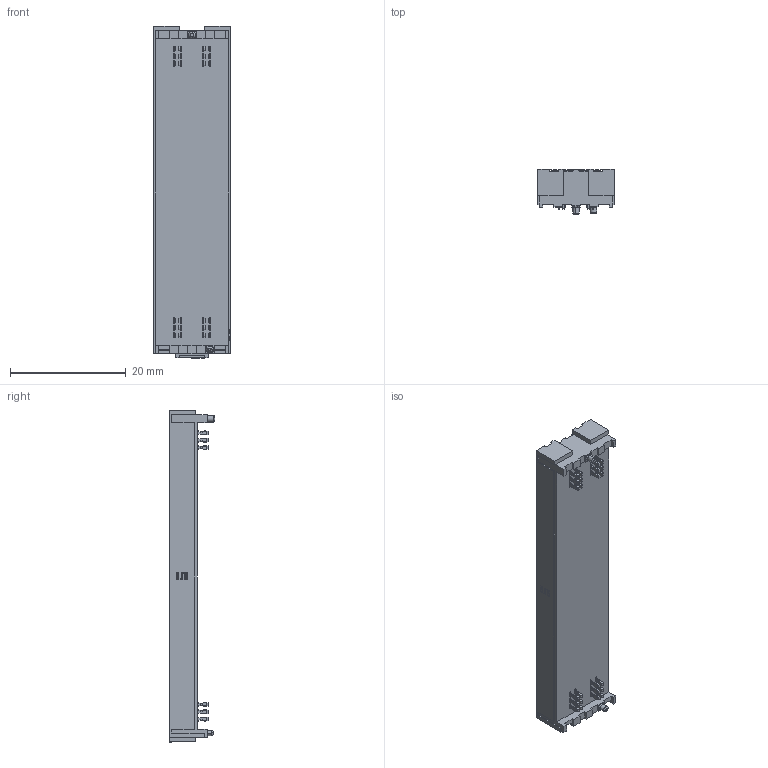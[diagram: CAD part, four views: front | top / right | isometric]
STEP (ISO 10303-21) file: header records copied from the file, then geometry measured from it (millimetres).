
FILE_DESCRIPTION (( 'STEP AP203' ), '1' );
FILE_NAME ('ASP-134603-01.step', '2017-09-11T19:12:48', ( '' ), ( '' ), 'SwSTEP 2.0', 'SolidWorks 2016', '' );
FILE_SCHEMA (( 'CONFIG_CONTROL_DESIGN' ));
Products named in the file (1): ASP-134603-01
Bounding box: 13.24 x 7.82 x 57.45 mm (x, y, z)
Volume: 2255.5 mm3; surface area: 4148.9 mm2
Topology: 1 solids, 1 shells, 2399 faces, 6633 edges, 4182 vertices
Faces by surface type: plane 1353, cylinder 682, bspline 298, torus 36, cone 24, sphere 6
Entity records: 80023 total; most frequent: CARTESIAN_POINT 22026, ORIENTED_EDGE 13158, DIRECTION 10595, EDGE_CURVE 6579, VERTEX_POINT 4182, LINE 4095, VECTOR 4095, AXIS2_PLACEMENT_3D 3250
